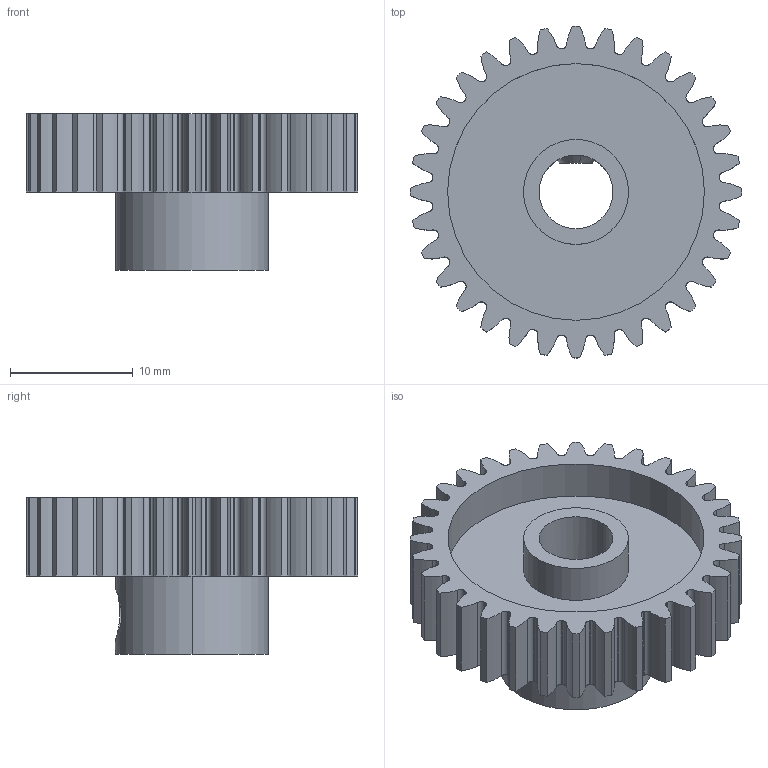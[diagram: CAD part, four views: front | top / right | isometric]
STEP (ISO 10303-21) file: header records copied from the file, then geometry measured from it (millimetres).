
FILE_DESCRIPTION (( 'STEP AP203' ), '1' );
FILE_NAME ('615270 assembly.STEP', '2016-10-04T20:25:25', ( '' ), ( '' ), 'SwSTEP 2.0', 'SolidWorks 2014', '' );
FILE_SCHEMA (( 'CONFIG_CONTROL_DESIGN' ));
Length unit declared in the file: inch
Products named in the file (3): 615270 assembly; 632134_91375A436; 615270_Gear Blank
Assembly tree (2 placements, depth 2):
  615270 assembly
    615270_Gear Blank
    632134_91375A436
Bounding box: 26.99 x 26.99 x 12.7 mm (x, y, z)
Volume: 2680.6 mm3; surface area: 2858.8 mm2
Topology: 2 solids, 2 shells, 345 faces, 993 edges, 653 vertices
Faces by surface type: bspline 139, cylinder 108, plane 82, cone 16
Entity records: 23332 total; most frequent: CARTESIAN_POINT 15080, ORIENTED_EDGE 1978, DIRECTION 1200, EDGE_CURVE 989, VERTEX_POINT 653, LINE 446, VECTOR 446, AXIS2_PLACEMENT_3D 377
